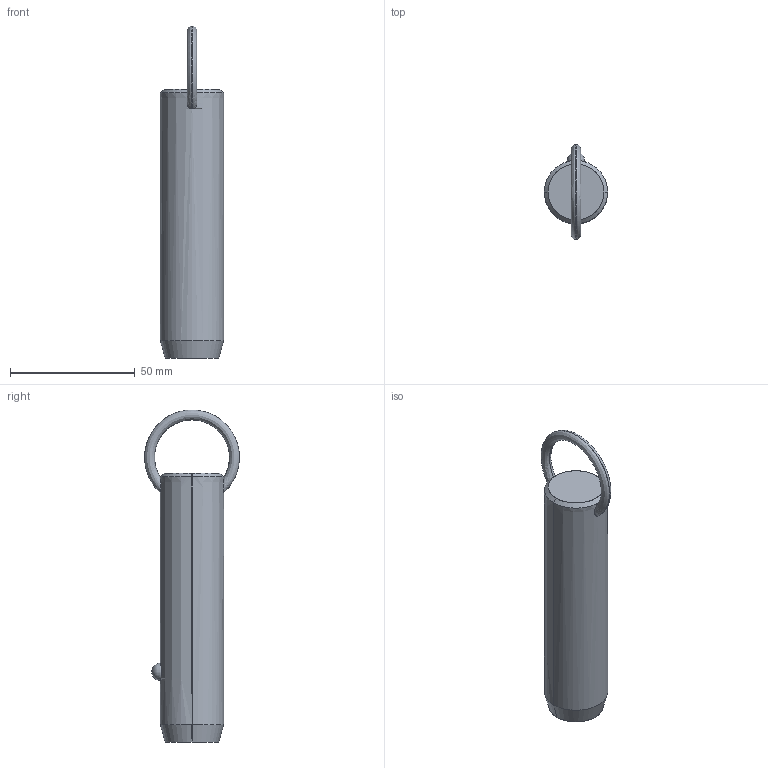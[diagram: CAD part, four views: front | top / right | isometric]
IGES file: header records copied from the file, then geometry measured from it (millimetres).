
Start section: SolidWorks IGES file using analytic representation for surfaces
Global section: file name: C:\Users\liam_\OneDrive\Documents\WORK\Work for WixRoyd\Job Files\J-00019 - Matt Davis CAD Checking\04. CAD Drawings\automotion20190605\P1250.2_v2\P1250.2_v2_20190729_IGES\P1250.100-250.igs; native system: SolidWorks 2017; preprocessor: SolidWorks 2017; author: liam_; date: 190730.173553; units: millimetre
Bounding box: 25.4 x 38.09 x 133.29 mm (x, y, z)
Surface area: 10383.4 mm2 (no closed solid volume)
Topology: 0 solids, 0 shells, 12 faces, 298 edges, 296 vertices
Faces by surface type: revolution 8, bspline 4
